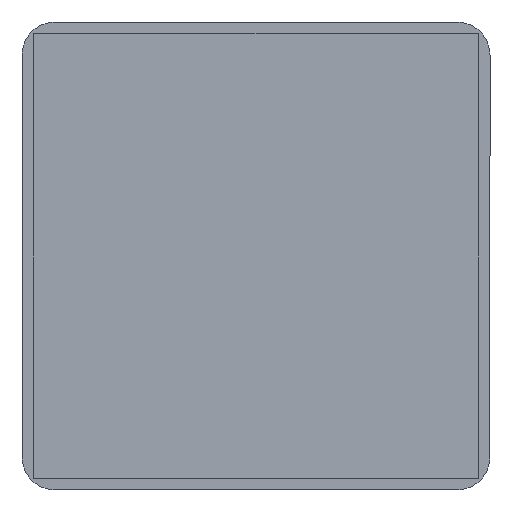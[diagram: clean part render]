
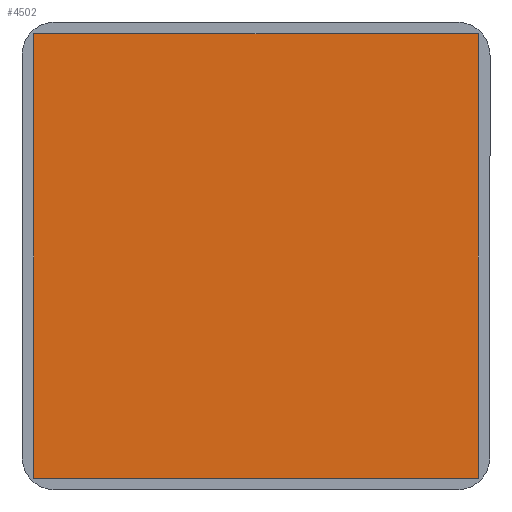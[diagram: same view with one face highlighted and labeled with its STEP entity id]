
A CAD part, front view. The second image highlights one B-rep face of the part: STEP entity #4502.
In plain terms, the highlighted planar face has unit normal (0, -1, 0).
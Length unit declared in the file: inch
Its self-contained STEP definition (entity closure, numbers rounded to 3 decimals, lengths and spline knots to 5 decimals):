
#624 = PLANE ( 'NONE',  #8003 ) ;
#1591 = LINE ( 'NONE', #2968, #11859 ) ;
#1982 = EDGE_CURVE ( 'NONE', #10158, #18884, #16169, .T. ) ;
#2402 = VECTOR ( 'NONE', #13528, 39.37008 ) ;
#2623 = CARTESIAN_POINT ( 'NONE',  ( 0.7874, -0.005, -0.7874 ) ) ;
#2968 = CARTESIAN_POINT ( 'NONE',  ( -0.7874, -0.005, -0.7874 ) ) ;
#4489 = CARTESIAN_POINT ( 'NONE',  ( -0.7874, -0.005, -0.7874 ) ) ;
#4502 = ADVANCED_FACE ( 'NONE', ( #13944 ), #624, .F. ) ;
#4519 = CARTESIAN_POINT ( 'NONE',  ( 0.7874, -0.005, 0.7874 ) ) ;
#5791 = EDGE_LOOP ( 'NONE', ( #17768, #13713, #15254, #15045 ) ) ;
#5849 = LINE ( 'NONE', #4489, #2402 ) ;
#6210 = EDGE_CURVE ( 'NONE', #6525, #9750, #5849, .T. ) ;
#6512 = CARTESIAN_POINT ( 'NONE',  ( -0.7874, -0.005, 0.7874 ) ) ;
#6525 = VERTEX_POINT ( 'NONE', #2623 ) ;
#6910 = DIRECTION ( 'NONE',  ( 0., 0., -1. ) ) ;
#7411 = CARTESIAN_POINT ( 'NONE',  ( -0.7874, -0.005, 0.7874 ) ) ;
#8003 = AXIS2_PLACEMENT_3D ( 'NONE', #6512, #12504, #11030 ) ;
#8857 = CARTESIAN_POINT ( 'NONE',  ( -0.7874, -0.005, 0.7874 ) ) ;
#9750 = VERTEX_POINT ( 'NONE', #18981 ) ;
#10111 = VECTOR ( 'NONE', #14907, 39.37008 ) ;
#10158 = VERTEX_POINT ( 'NONE', #8857 ) ;
#11030 = DIRECTION ( 'NONE',  ( 0., 0., 1. ) ) ;
#11859 = VECTOR ( 'NONE', #11916, 39.37008 ) ;
#11916 = DIRECTION ( 'NONE',  ( 0., 0., 1. ) ) ;
#12504 = DIRECTION ( 'NONE',  ( 0., 1., 0. ) ) ;
#13528 = DIRECTION ( 'NONE',  ( -1., 0., 0. ) ) ;
#13713 = ORIENTED_EDGE ( 'NONE', *, *, #6210, .F. ) ;
#13944 = FACE_OUTER_BOUND ( 'NONE', #5791, .T. ) ;
#14425 = EDGE_CURVE ( 'NONE', #9750, #10158, #1591, .T. ) ;
#14907 = DIRECTION ( 'NONE',  ( 1., 0., 0. ) ) ;
#15045 = ORIENTED_EDGE ( 'NONE', *, *, #1982, .F. ) ;
#15254 = ORIENTED_EDGE ( 'NONE', *, *, #18757, .F. ) ;
#15585 = VECTOR ( 'NONE', #6910, 39.37008 ) ;
#15683 = LINE ( 'NONE', #17551, #15585 ) ;
#16169 = LINE ( 'NONE', #7411, #10111 ) ;
#17551 = CARTESIAN_POINT ( 'NONE',  ( 0.7874, -0.005, -0.7874 ) ) ;
#17768 = ORIENTED_EDGE ( 'NONE', *, *, #14425, .F. ) ;
#18757 = EDGE_CURVE ( 'NONE', #18884, #6525, #15683, .T. ) ;
#18884 = VERTEX_POINT ( 'NONE', #4519 ) ;
#18981 = CARTESIAN_POINT ( 'NONE',  ( -0.7874, -0.005, -0.7874 ) ) ;
